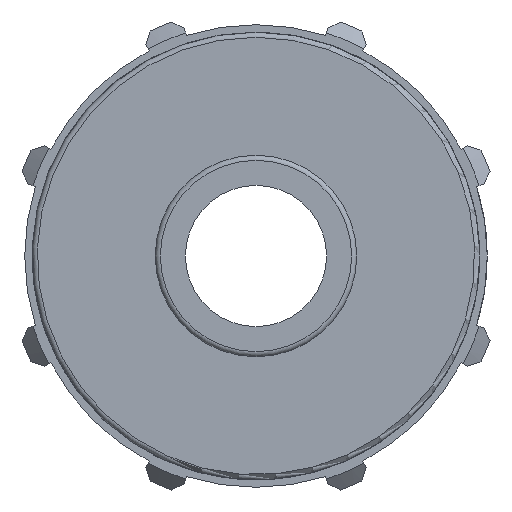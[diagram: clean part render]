
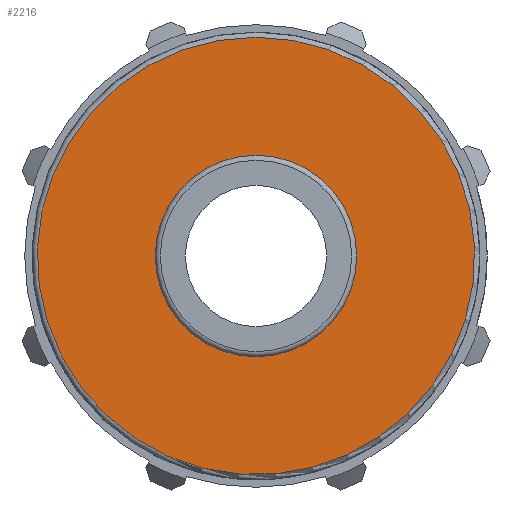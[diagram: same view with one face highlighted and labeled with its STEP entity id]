
A CAD part, left-side view. The second image highlights one B-rep face of the part: STEP entity #2216.
In plain terms, the highlighted planar face has unit normal (-1, 0, 0).
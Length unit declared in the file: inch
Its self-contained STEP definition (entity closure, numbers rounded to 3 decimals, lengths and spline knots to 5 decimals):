
#422=FACE_BOUND('',#639,.T.);
#435=PLANE('',#2401);
#514=FACE_OUTER_BOUND('',#638,.T.);
#638=EDGE_LOOP('',(#1534,#1535));
#639=EDGE_LOOP('',(#1536,#1537));
#746=CIRCLE('',#2341,0.65451);
#747=CIRCLE('',#2342,0.65451);
#784=CIRCLE('',#2399,1.42035);
#785=CIRCLE('',#2400,1.42035);
#863=VERTEX_POINT('',#3209);
#864=VERTEX_POINT('',#3210);
#930=VERTEX_POINT('',#3599);
#931=VERTEX_POINT('',#3601);
#1087=EDGE_CURVE('',#863,#864,#746,.T.);
#1088=EDGE_CURVE('',#864,#863,#747,.T.);
#1175=EDGE_CURVE('',#930,#931,#784,.T.);
#1176=EDGE_CURVE('',#931,#930,#785,.T.);
#1534=ORIENTED_EDGE('',*,*,#1176,.F.);
#1535=ORIENTED_EDGE('',*,*,#1175,.F.);
#1536=ORIENTED_EDGE('',*,*,#1087,.T.);
#1537=ORIENTED_EDGE('',*,*,#1088,.T.);
#2216=ADVANCED_FACE('',(#514,#422),#435,.T.);
#2341=AXIS2_PLACEMENT_3D('',#3211,#2589,#2590);
#2342=AXIS2_PLACEMENT_3D('',#3212,#2591,#2592);
#2399=AXIS2_PLACEMENT_3D('',#3602,#2731,#2732);
#2400=AXIS2_PLACEMENT_3D('',#3603,#2733,#2734);
#2401=AXIS2_PLACEMENT_3D('',#3604,#2735,#2736);
#2589=DIRECTION('center_axis',(1.,0.,0.));
#2590=DIRECTION('ref_axis',(0.,0.,-1.));
#2591=DIRECTION('center_axis',(1.,0.,0.));
#2592=DIRECTION('ref_axis',(0.,0.,-1.));
#2731=DIRECTION('center_axis',(1.,0.,0.));
#2732=DIRECTION('ref_axis',(0.,-0.552,0.834));
#2733=DIRECTION('center_axis',(1.,0.,0.));
#2734=DIRECTION('ref_axis',(0.,-0.552,0.834));
#2735=DIRECTION('center_axis',(-1.,0.,0.));
#2736=DIRECTION('ref_axis',(0.,0.,1.));
#3209=CARTESIAN_POINT('',(0.79,0.65451,0.));
#3210=CARTESIAN_POINT('',(0.79,-0.65451,0.));
#3211=CARTESIAN_POINT('Origin',(0.79,0.,0.));
#3212=CARTESIAN_POINT('Origin',(0.79,0.,0.));
#3599=CARTESIAN_POINT('',(0.79,0.,1.42035));
#3601=CARTESIAN_POINT('',(0.79,0.78363,-1.18461));
#3602=CARTESIAN_POINT('Origin',(0.79,0.,0.));
#3603=CARTESIAN_POINT('Origin',(0.79,0.,0.));
#3604=CARTESIAN_POINT('Origin',(0.79,1.4535,0.));
